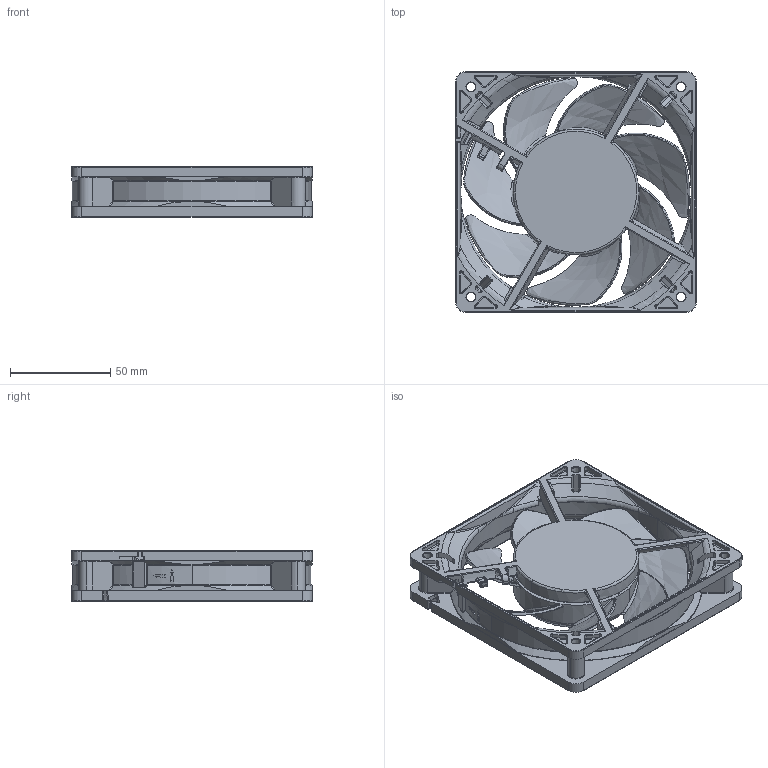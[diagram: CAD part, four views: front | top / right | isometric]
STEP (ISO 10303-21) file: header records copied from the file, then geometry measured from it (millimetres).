
FILE_DESCRIPTION (( 'STEP AP203' ), '1' );
FILE_NAME ('12025AD_RIBBED.STEP', '2023-07-11T05:02:01', ( '' ), ( '' ), 'SwSTEP 2.0', 'SolidWorks 2019', '' );
FILE_SCHEMA (( 'CONFIG_CONTROL_DESIGN' ));
Length unit declared in the file: millimetre
Products named in the file (1): 12025AD_RIBBED
Bounding box: 120 x 120 x 25.3 mm (x, y, z)
Volume: 127446.1 mm3; surface area: 65021.5 mm2
Topology: 1 solids, 1 shells, 1732 faces, 4247 edges, 2459 vertices
Faces by surface type: cylinder 571, bspline 379, torus 322, plane 259, sphere 151, cone 50
Entity records: 75680 total; most frequent: CARTESIAN_POINT 38283, ORIENTED_EDGE 8236, DIRECTION 7565, EDGE_CURVE 4118, AXIS2_PLACEMENT_3D 3238, VERTEX_POINT 2421, CIRCLE 1884, EDGE_LOOP 1781
